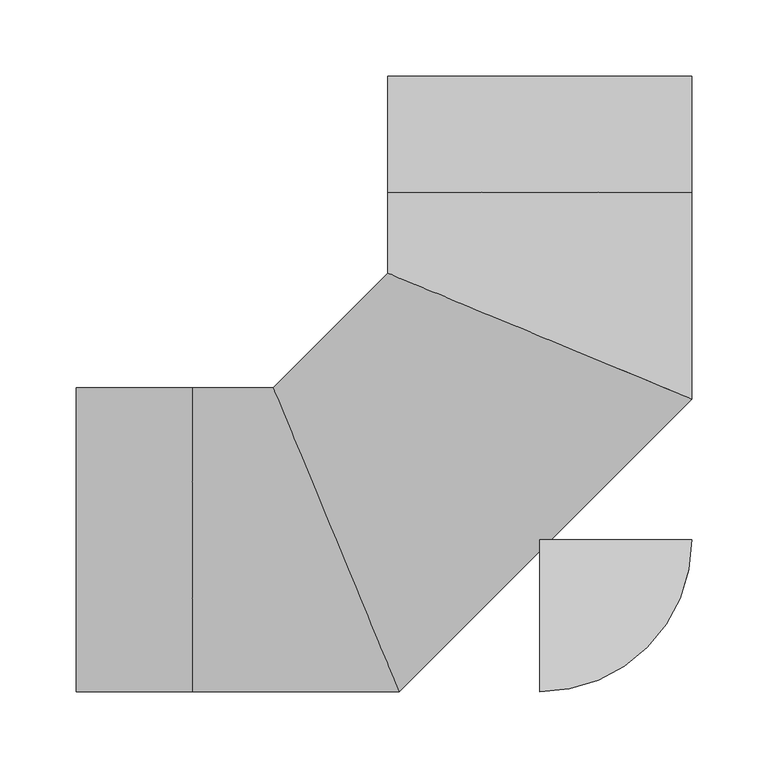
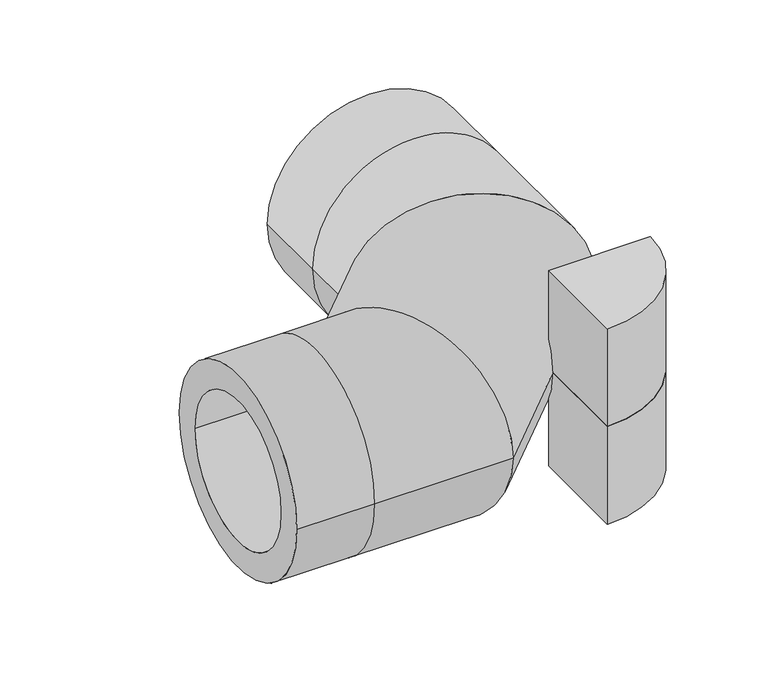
"""IFC4 building model written with IfcOpenShell, lengths in millimetres: pipe fitting geometry, Aquatherm - Elbow Green BW Segmented : SDR 7.4 FASER."""

from ifc_helpers import new_model, si_unit, point, frame, origin, origin_with_axes, origin_2d, place, context, project, spatial, polyline, circle_curve, ellipse_curve, trimmed, segment, composite_curve, outline, extrude, source, transform, mapped, element, save
from ifc_brep_helpers import plane_surface, cylinder_surface, revolved_surface, advanced_brep


def pipe_fitting_6e756c6b(model_context):
    return source(origin(), model_context, "Body", "SolidModel", [
        extrude(outline(composite_curve([segment(polyline([(0.0, -99.949), (0.0, 0.0), (99.949, 0.0)]), True, "CONTINUOUS"), segment(trimmed(circle_curve(origin_2d(), 99.949), [point((99.949, 0.0))], [point((0.0, -99.949))], False, "CARTESIAN"), True, "CONTINUOUS")], self_intersect=False)), frame((0.0, 0.0, -101.6), z_axis=(0.0, 0.0, 1.0), x_axis=(1.0, 0.0, 0.0)), (0.0, 0.0, 1.0), 101.6),
        extrude(outline(composite_curve([segment(trimmed(circle_curve(origin_2d(), 99.949), [point((99.949, 0.0))], [point((0.0, -99.949))], False, "CARTESIAN"), True, "CONTINUOUS"), segment(polyline([(0.0, -99.949), (0.0, 0.0), (99.949, 0.0)]), True, "CONTINUOUS")], self_intersect=False)), origin_with_axes(), (0.0, 0.0, 1.0), 101.6),
        advanced_brep(
        [(-304.8, -99.949, 0.0), (-304.8, 99.949, 0.0), (-304.8, -72.9300517, 0.0), (-304.8, 72.9300517, 0.0), (99.949, 304.8, 0.0), (-99.949, 304.8, 0.0), (72.9300517, 304.8, 0.0), (-72.9300517, 304.8, 0.0), (-228.6, -99.949, 0.0), (-228.6, 99.949, 0.0), (-228.6, -72.9300517, 0.0), (-228.6, 72.9300517, 0.0), (-92.5105483, -99.949, 0.0), (-175.311011, 99.949, 0.0), (-103.7021631, -72.9300517, 0.0), (-164.1193962, 72.9300517, 0.0), (99.949, 92.5105483, 0.0), (-99.949, 175.311011, 0.0), (72.9300517, 103.7021631, 0.0), (-72.9300517, 164.1193962, 0.0), (-99.949, 228.6, 0.0), (99.949, 228.6, 0.0), (-72.9300517, 228.6, 0.0), (72.9300517, 228.6, 0.0)],
        [
            (0, 1, circle_curve(frame((-304.8, 0.0, 0.0), z_axis=(-1.0, 0.0, 0.0), x_axis=(0.0, 1.0, 0.0)), 99.949)),
            (1, 0, circle_curve(frame((-304.8, 0.0, 0.0), z_axis=(-1.0, 0.0, 0.0), x_axis=(0.0, 1.0, 0.0)), 99.949)),
            (2, 3, circle_curve(frame((-304.8, 0.0, 0.0), z_axis=(1.0, 0.0, 0.0), x_axis=(0.0, 1.0, 0.0)), 72.9300517)),
            (3, 2, circle_curve(frame((-304.8, 0.0, 0.0), z_axis=(1.0, 0.0, 0.0), x_axis=(0.0, 1.0, 0.0)), 72.9300517)),
            (4, 5, circle_curve(frame((0.0, 304.8, 0.0), z_axis=(0.0, 1.0, 0.0), x_axis=(-1.0, 0.0, 0.0)), 99.949)),
            (5, 4, circle_curve(frame((0.0, 304.8, 0.0), z_axis=(0.0, 1.0, 0.0), x_axis=(-1.0, 0.0, 0.0)), 99.949)),
            (6, 7, circle_curve(frame((0.0, 304.8, 0.0), z_axis=(0.0, -1.0, 0.0), x_axis=(-1.0, 0.0, 0.0)), 72.9300517)),
            (7, 6, circle_curve(frame((0.0, 304.8, 0.0), z_axis=(0.0, -1.0, 0.0), x_axis=(-1.0, 0.0, 0.0)), 72.9300517)),
            (0, 8),
            (8, 9, circle_curve(frame((-228.6, 0.0, 0.0), z_axis=(-1.0, 0.0, 0.0), x_axis=(0.0, 1.0, 0.0)), 99.949)),
            (9, 1),
            (9, 8, circle_curve(frame((-228.6, 0.0, 0.0), z_axis=(-1.0, 0.0, 0.0), x_axis=(0.0, 1.0, 0.0)), 99.949)),
            (2, 10),
            (10, 11, circle_curve(frame((-228.6, 0.0, 0.0), z_axis=(1.0, 0.0, 0.0), x_axis=(0.0, 1.0, 0.0)), 72.9300517)),
            (11, 3),
            (11, 10, circle_curve(frame((-228.6, 0.0, 0.0), z_axis=(1.0, 0.0, 0.0), x_axis=(0.0, 1.0, 0.0)), 72.9300517)),
            (8, 12),
            (12, 13, ellipse_curve(frame((-133.9107796, 0.0, 0.0), z_axis=(-0.9238795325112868, -0.3826834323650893, 0.0), x_axis=(-0.3826834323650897, 0.9238795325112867, 0.0)), 108.184018, 99.949)),
            (13, 9),
            (13, 12, ellipse_curve(frame((-133.9107796, 0.0, 0.0), z_axis=(-0.9238795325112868, -0.3826834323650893, 0.0), x_axis=(-0.3826834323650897, 0.9238795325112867, 0.0)), 108.184018, 99.949)),
            (10, 14),
            (14, 15, ellipse_curve(frame((-133.9107796, 0.0, 0.0), z_axis=(0.9238795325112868, 0.3826834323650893, 0.0), x_axis=(0.3826834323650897, -0.9238795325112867, 0.0)), 78.9389192, 72.9300517)),
            (15, 11),
            (15, 14, ellipse_curve(frame((-133.9107796, 0.0, 0.0), z_axis=(0.9238795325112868, 0.3826834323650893, 0.0), x_axis=(0.3826834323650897, -0.9238795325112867, 0.0)), 78.9389192, 72.9300517)),
            (12, 16),
            (16, 17, ellipse_curve(frame((0.0, 133.9107796, 0.0), z_axis=(-0.382683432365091, -0.9238795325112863, 0.0), x_axis=(-0.9238795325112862, 0.382683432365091, 0.0)), 108.184018, 99.949)),
            (17, 13),
            (17, 16, ellipse_curve(frame((0.0, 133.9107796, 0.0), z_axis=(-0.382683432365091, -0.9238795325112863, 0.0), x_axis=(-0.9238795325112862, 0.382683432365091, 0.0)), 108.184018, 99.949)),
            (14, 18),
            (18, 19, ellipse_curve(frame((0.0, 133.9107796, 0.0), z_axis=(0.382683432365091, 0.9238795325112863, 0.0), x_axis=(0.9238795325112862, -0.382683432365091, 0.0)), 78.9389192, 72.9300517)),
            (19, 15),
            (19, 18, ellipse_curve(frame((0.0, 133.9107796, 0.0), z_axis=(0.382683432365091, 0.9238795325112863, 0.0), x_axis=(0.9238795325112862, -0.382683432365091, 0.0)), 78.9389192, 72.9300517)),
            (20, 21, circle_curve(frame((0.0, 228.6, 0.0), z_axis=(0.0, 1.0, 0.0), x_axis=(-1.0, 0.0, 0.0)), 99.949)),
            (21, 4),
            (5, 20),
            (21, 20, circle_curve(frame((0.0, 228.6, 0.0), z_axis=(0.0, 1.0, 0.0), x_axis=(-1.0, 0.0, 0.0)), 99.949)),
            (22, 23, circle_curve(frame((0.0, 228.6, 0.0), z_axis=(0.0, -1.0, 0.0), x_axis=(-1.0, 0.0, 0.0)), 72.9300517)),
            (23, 6),
            (7, 22),
            (23, 22, circle_curve(frame((0.0, 228.6, 0.0), z_axis=(0.0, -1.0, 0.0), x_axis=(-1.0, 0.0, 0.0)), 72.9300517)),
            (16, 21),
            (20, 17),
            (18, 23),
            (22, 19),
        ],
        [
            plane_surface(frame((-304.8, 0.0, 0.0), z_axis=(-1.0, 0.0, 0.0), x_axis=(0.0, 0.0, 1.0))),
            plane_surface(frame((0.0, 304.8, 0.0), z_axis=(0.0, 1.0, 0.0), x_axis=(0.0, 0.0, 1.0))),
            cylinder_surface(frame((-304.8, 0.0, 0.0), z_axis=(-1.0, 0.0, 0.0), x_axis=(0.0, 1.0, 0.0)), 99.949),
            revolved_surface(polyline([(-228.6, 72.9300517, 0.0), (-304.8, 72.9300517, 0.0)]), (-304.8, 0.0, 0.0), (1.0, 0.0, 0.0)),
            cylinder_surface(frame((-228.6, 0.0, 0.0), z_axis=(-1.0, 0.0, 0.0), x_axis=(0.0, 1.0, 0.0)), 99.949),
            revolved_surface(polyline([(-103.70216305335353, 72.9300517, 0.0), (-228.6, 72.9300517, 0.0)]), (-228.6, 0.0, 0.0), (1.0, 0.0, 0.0)),
            cylinder_surface(frame((-133.9107796, 0.0, 0.0), z_axis=(-0.7071067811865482, -0.7071067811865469, 0.0), x_axis=(-0.7071067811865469, 0.7071067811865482, 0.0)), 99.949),
            revolved_surface(polyline([(-30.20861649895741, 206.8408313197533, 0.0), (-206.8408313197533, 30.208616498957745, 0.0)]), (-133.9107796, 0.0, 0.0), (0.7071067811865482, 0.7071067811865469, 0.0)),
            cylinder_surface(frame((0.0, 228.6, 0.0), z_axis=(0.0, -1.0, 0.0), x_axis=(-1.0, 0.0, 0.0)), 99.949),
            revolved_surface(polyline([(-72.9300517, 304.8, 0.0), (-72.9300517, 228.6, 0.0)]), (0.0, 228.6, 0.0), (0.0, 1.0, 0.0)),
            cylinder_surface(frame((0.0, 133.9107796, 0.0), z_axis=(0.0, -1.0, 0.0), x_axis=(-1.0, 0.0, 0.0)), 99.949),
            revolved_surface(polyline([(-72.9300517, 228.6, 0.0), (-72.9300517, 103.70216305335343, 0.0)]), (0.0, 133.9107796, 0.0), (0.0, 1.0, 0.0)),
        ],
        [
            (0, [[1, 2], [3, 4]]),
            (1, [[5, 6], [7, 8]]),
            (2, [[-1, 9, 10, 11]]),
            (2, [[-2, -11, 12, -9]]),
            (3, [[-3, 13, 14, 15]]),
            (3, [[-4, -15, 16, -13]]),
            (4, [[-10, 17, 18, 19]]),
            (4, [[-12, -19, 20, -17]]),
            (5, [[-14, 21, 22, 23]]),
            (5, [[-16, -23, 24, -21]]),
            (6, [[-18, 25, 26, 27]]),
            (6, [[-20, -27, 28, -25]]),
            (7, [[-22, 29, 30, 31]]),
            (7, [[-24, -31, 32, -29]]),
            (8, [[33, 34, -6, 35]]),
            (8, [[36, -35, -5, -34]]),
            (9, [[37, 38, -8, 39]]),
            (9, [[40, -39, -7, -38]]),
            (10, [[-26, 41, -33, 42]]),
            (10, [[-28, -42, -36, -41]]),
            (11, [[-30, 43, -37, 44]]),
            (11, [[-32, -44, -40, -43]]),
        ],
    ),
    ])


if __name__ == "__main__":
    model = new_model("IFC4")
    model_context = context("Model", 3, world=origin())
    ifc_project = project(units=[si_unit("LENGTHUNIT", "METRE", prefix="MILLI")], contexts=[model_context])
    site = spatial("IfcSite", under=ifc_project)
    building = spatial("IfcBuilding", under=site)
    placement = place(None, origin())
    pipe_fitting_shape = pipe_fitting_6e756c6b(model_context)
    element("IfcPipeFitting", 1, ObjectType="Aquatherm - Elbow Green BW Segmented : SDR 7.4 FASER", at=placement, inside=building, context=model_context, shape_type="MappedRepresentation", body=[
        mapped(pipe_fitting_shape, transform((0.0, 0.0, 0.0), x_axis=(1.0, 0.0, 0.0), y_axis=(0.0, 1.0, 0.0), z_axis=(0.0, 0.0, 1.0))),
    ])
    save(model, "model.ifc")
